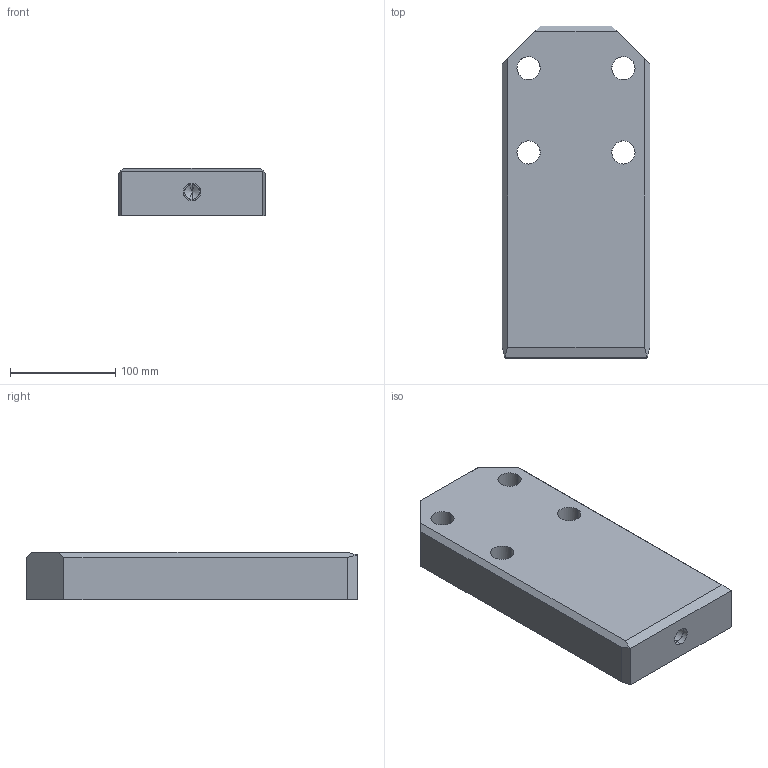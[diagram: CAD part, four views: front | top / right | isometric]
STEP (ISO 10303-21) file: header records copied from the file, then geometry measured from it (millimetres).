
FILE_DESCRIPTION(('CATIA V5 STEP Exchange'),'2;1');
FILE_NAME('C:\Users\borellobunino\Desktop\3D X SITO CF\A927\GSB_OILLESS_G2290514031545\STEP-2.03\A927-140X315X45.stp','2019-07-15T18:52:39+00:00',('none'),('none'),'CATIA Version 5 Release 20 GA (IN-10)','CATIA V5 STEP AP203','none');
FILE_SCHEMA(('CONFIG_CONTROL_DESIGN'));
Length unit declared in the file: millimetre
Products named in the file (1): A927-140X315X45
Bounding box: 140 x 315 x 45 mm (x, y, z)
Volume: 1788884.3 mm3; surface area: 136880.7 mm2
Topology: 1 solids, 1 shells, 52 faces, 134 edges, 89 vertices
Faces by surface type: cylinder 22, plane 20, cone 10
Entity records: 2048 total; most frequent: CARTESIAN_POINT 784, ORIENTED_EDGE 264, DIRECTION 206, EDGE_CURVE 132, VERTEX_POINT 89, AXIS2_PLACEMENT_3D 87, VECTOR 68, LINE 68
